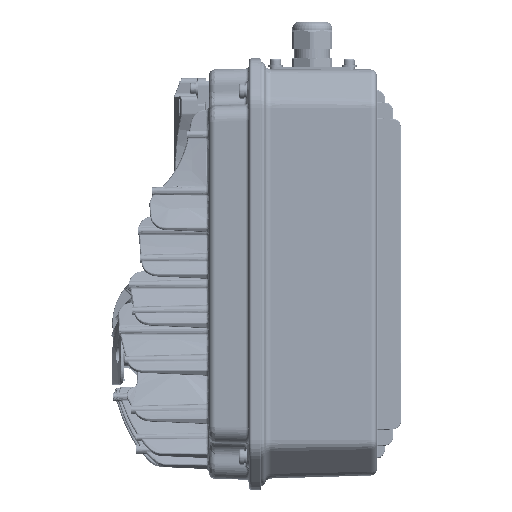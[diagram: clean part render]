
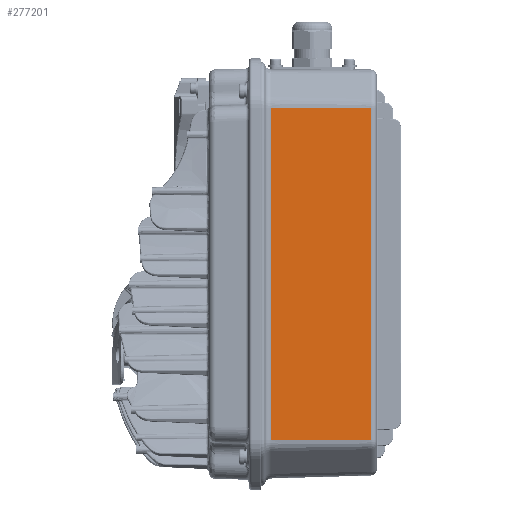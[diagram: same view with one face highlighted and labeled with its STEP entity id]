
A CAD part, left-side view. The second image highlights one B-rep face of the part: STEP entity #277201.
In plain terms, the highlighted planar face has unit normal (-1, -0.03, 0).
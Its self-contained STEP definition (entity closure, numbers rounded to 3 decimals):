
#237652=DIRECTION('',(0.,0.,-1.));
#237653=VECTOR('',#237652,207.716);
#237654=CARTESIAN_POINT('',(-87.871,-8.654,
103.858));
#237655=LINE('',#237654,#237653);
#240289=DIRECTION('',(0.03,-1.,0.));
#240290=VECTOR('',#240289,62.492);
#240291=CARTESIAN_POINT('',(-87.871,-8.654,
-103.858));
#240292=LINE('',#240291,#240290);
#240320=DIRECTION('',(0.,0.,1.));
#240321=VECTOR('',#240320,207.716);
#240322=CARTESIAN_POINT('',(-86.017,-71.119,
-103.858));
#240323=LINE('',#240322,#240321);
#240334=DIRECTION('',(-0.03,1.,0.));
#240335=VECTOR('',#240334,62.492);
#240336=CARTESIAN_POINT('',(-86.017,-71.119,
103.858));
#240337=LINE('',#240336,#240335);
#269901=CARTESIAN_POINT('',(-87.871,-8.654,
-103.858));
#269902=VERTEX_POINT('',#269901);
#269903=CARTESIAN_POINT('',(-87.871,-8.654,
103.858));
#269905=VERTEX_POINT('',#269903);
#270329=CARTESIAN_POINT('',(-86.017,-71.119,
-103.858));
#270330=VERTEX_POINT('',#270329);
#270333=CARTESIAN_POINT('',(-86.017,-71.119,
103.858));
#270334=VERTEX_POINT('',#270333);
#277189=CARTESIAN_POINT('',(-87.987,-4.773,
-113.255));
#277190=DIRECTION('',(1.,0.03,0.));
#277191=DIRECTION('',(-0.03,1.,0.));
#277192=AXIS2_PLACEMENT_3D('',#277189,#277190,#277191);
#277193=PLANE('',#277192);
#277194=ORIENTED_EDGE('',*,*,#277155,.F.);
#277195=ORIENTED_EDGE('',*,*,#273853,.F.);
#277197=ORIENTED_EDGE('',*,*,#277196,.F.);
#277198=ORIENTED_EDGE('',*,*,#277179,.F.);
#277199=EDGE_LOOP('',(#277194,#277195,#277197,#277198));
#277200=FACE_OUTER_BOUND('',#277199,.F.);
#273853=EDGE_CURVE('',#269905,#269902,#237655,.T.);
#277155=EDGE_CURVE('',#269902,#270330,#240292,.T.);
#277179=EDGE_CURVE('',#270330,#270334,#240323,.T.);
#277196=EDGE_CURVE('',#270334,#269905,#240337,.T.);
#277201=ADVANCED_FACE('',(#277200),#277193,.F.);
